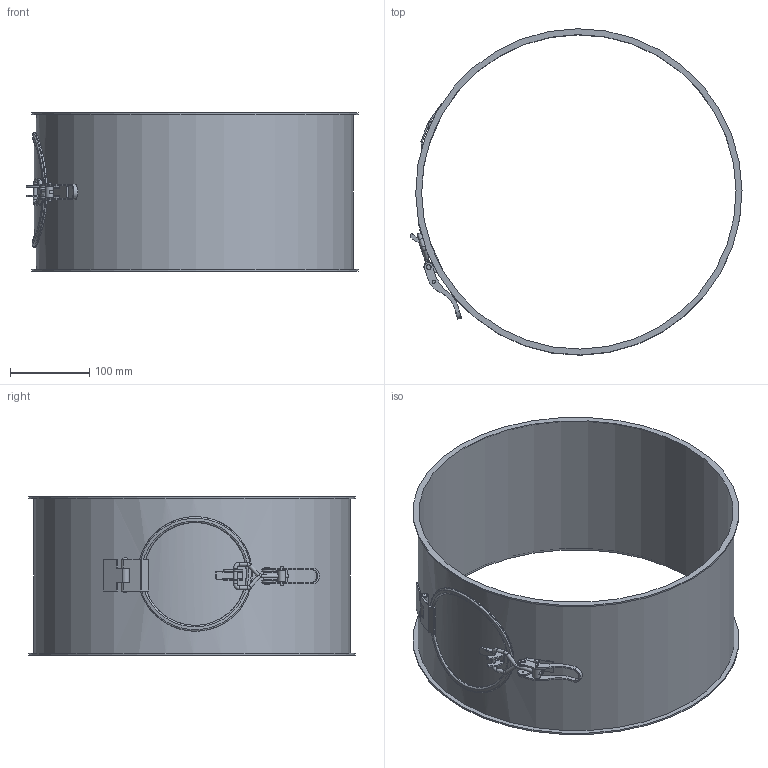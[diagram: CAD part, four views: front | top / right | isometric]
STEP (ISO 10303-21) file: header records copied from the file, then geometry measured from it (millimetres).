
FILE_DESCRIPTION((''),'2;1');
FILE_NAME('U:\Wolfgang\Marcel-3D\fertig\Kapitel 4\4011043.stp','2011-04-21T08:32:25',('TK1'),(''),'Autodesk Inventor 2010','Autodesk Inventor 2010','');
FILE_SCHEMA(('AUTOMOTIVE_DESIGN { 1 0 10303 214 1 1 1 1 }'));
Length unit declared in the file: millimetre
Products named in the file (15): 4011043 (Detailgenauigkeit1); 4011043-1; GelenkDeckel40; GelenkDeckel1c; Deckel40; GelenkDeckel35a; VerschlussDeckel40; dichtung40; Verschluss40; Verschluss40a; Verschluss1b; Verschluss1c; Verschluss1d; Verschluss1e
Assembly tree (15 placements, depth 3):
  4011043 (Detailgenauigkeit1)
    4011043-1
    GelenkDeckel40
    GelenkDeckel1c
    Deckel40
      Deckel40
      GelenkDeckel35a
      VerschlussDeckel40
      dichtung40
    Verschluss40
      Verschluss40a
      Verschluss1b
      Verschluss1c
      Verschluss1d  x2
      Verschluss1e
Bounding box: 420.2 x 412.99 x 200 mm (x, y, z)
Volume: 440443.8 mm3; surface area: 573571.6 mm2
Topology: 13 solids, 13 shells, 177 faces, 416 edges, 269 vertices
Faces by surface type: cylinder 81, plane 80, torus 9, bspline 5, sphere 2
Full cylindrical faces by diameter (mm): 2 x4, 4 x4, 5 x6, 6 x6, 6.2 x2, 10 x1, 115 x1, 130 x1, 135 x1, 145 x1, 398 x1, 401 x1, 413 x2
Entity records: 6731 total; most frequent: CARTESIAN_POINT 2474, DIRECTION 862, ORIENTED_EDGE 710, EDGE_CURVE 355, AXIS2_PLACEMENT_3D 341, VERTEX_POINT 252, EDGE_LOOP 241, VECTOR 180
